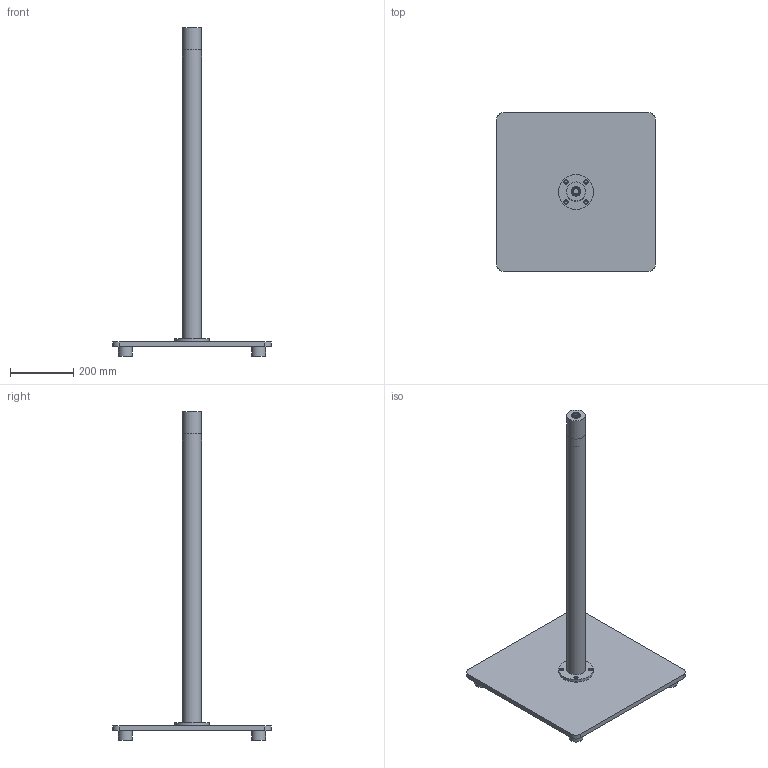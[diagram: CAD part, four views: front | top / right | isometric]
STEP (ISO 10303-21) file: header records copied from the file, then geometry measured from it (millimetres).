
FILE_DESCRIPTION(('Open CASCADE Model'),'2;1');
FILE_NAME('Open CASCADE Shape Model','2026-10-17T21:01:28',('Author'),( 'Open CASCADE'),'Open CASCADE STEP processor 7.9','Open CASCADE 7.9' ,'Unknown');
FILE_SCHEMA(('AUTOMOTIVE_DESIGN { 1 0 10303 214 1 1 1 1 }'));
Length unit declared in the file: millimetre
Products named in the file (16): TARGET_STAND; yaw_bearing_housing; yaw_bearing_top_6903_outer; yaw_bearing_top_6903_inner; yaw_bearing_top_6903_seal; yaw_bearing_bottom_6903_outer; yaw_bearing_bottom_6903_inner; yaw_bearing_bottom_6903_seal; stand_post_6061; stand_base_plate; stand_foot_0; stand_foot_1; stand_foot_2; stand_foot_3; stand_post_flange; stand_flange_screws_M8
Assembly tree (15 placements, depth 2):
  TARGET_STAND
    yaw_bearing_housing
    yaw_bearing_top_6903_outer
    yaw_bearing_top_6903_inner
    yaw_bearing_top_6903_seal
    yaw_bearing_bottom_6903_outer
    yaw_bearing_bottom_6903_inner
    yaw_bearing_bottom_6903_seal
    stand_post_6061
    stand_base_plate
    stand_foot_0
    stand_foot_1
    stand_foot_2
    stand_foot_3
    stand_post_flange
    stand_flange_screws_M8
Bounding box: 500 x 500 x 1036 mm (x, y, z)
Volume: 4733169.4 mm3; surface area: 950004.4 mm2
Topology: 18 solids, 18 shells, 135 faces, 234 edges, 156 vertices
Faces by surface type: plane 85, cylinder 50
Full cylindrical faces by diameter (mm): 8 x4, 9 x4, 12 x4, 13 x4, 13.6 x4, 17 x2, 21 x2, 21.68 x4, 25.32 x4, 30 x2, 30.05 x2, 44 x4, 53.9 x1, 54 x1, 60 x2, 60.1 x1, 110 x1
Entity records: 6741 total; most frequent: DIRECTION 1100, CARTESIAN_POINT 1033, LINE 502, VECTOR 502, ORIENTED_EDGE 468, PCURVE 468, DEFINITIONAL_REPRESENTATION 468, AXIS2_PLACEMENT_3D 251
